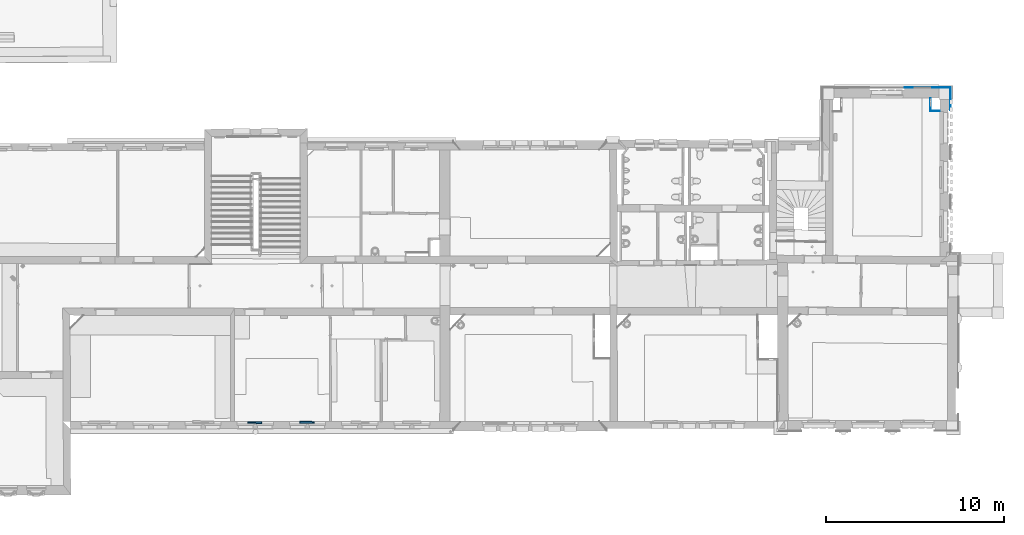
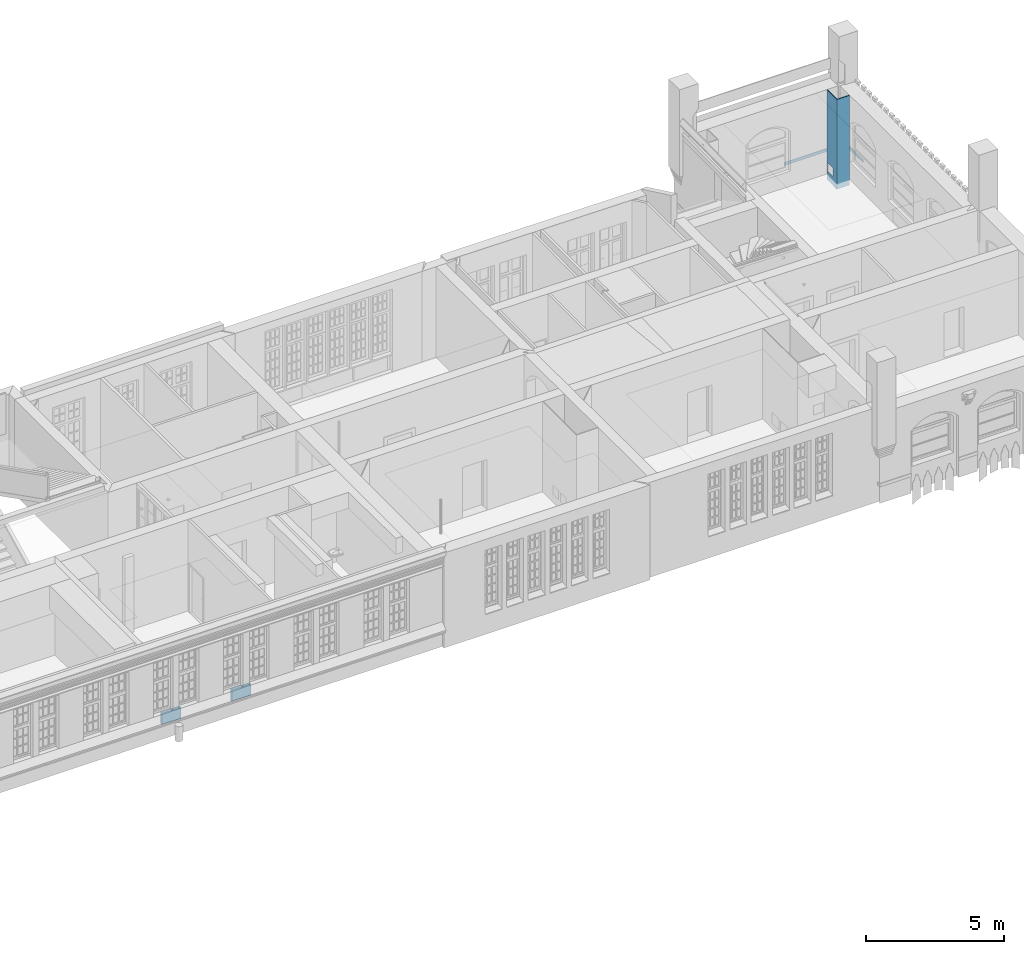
# One storey, part 38 of 90: 6 walls, 1 opening.
"""IFC2X3 building model written with IfcOpenShell, lengths in metres."""

import ifcopenshell
import ifcopenshell.guid

model = None  # the IFC model being written
_history = None  # IfcOwnerHistory: only IFC2X3 demands one
_inside = {}  # id of a spatial element -> (the spatial element, [elements in it])
_under = {}  # id of a project, library or spatial element -> (it, [spatial elements below it])
_declared = {}  # id of a project -> (the project, [libraries it declares])
_typed = {}  # id of a type object -> (the type object, [elements of that type])
_made_of = {}  # id of a material, layer set ... -> (it, [elements and type objects made of it])


def new_model(schema):
    """Start an empty IFC model of exactly this schema.

    Asked for "IFC4X3", IfcOpenShell would pick the latest addendum, in which some entities
    have other attributes; the version numbers below select the first issue.
    IFC2X3 requires an IfcOwnerHistory on every rooted entity: one is made here for all.
    """
    global model, _history
    if schema == "IFC4X3":
        model = ifcopenshell.file(schema_version=(4, 3, 0, 0))
    else:
        model = ifcopenshell.file(schema=schema)
    _inside.clear()
    _under.clear()
    _declared.clear()
    _typed.clear()
    _made_of.clear()
    _history = None
    if model.schema == "IFC2X3":
        org = make("IfcOrganization", Name="unknown")
        user = make(
            "IfcPersonAndOrganization",
            ThePerson=make("IfcPerson", FamilyName="unknown"),
            TheOrganization=org,
        )
        app = make(
            "IfcApplication",
            ApplicationDeveloper=org,
            Version="unknown",
            ApplicationFullName="unknown",
            ApplicationIdentifier="unknown",
        )
        _history = make(
            "IfcOwnerHistory",
            OwningUser=user,
            OwningApplication=app,
            ChangeAction="ADDED",
            CreationDate=0,
        )
    return model


def make(cls, **values):
    """One entity of the class cls with the attributes given. An attribute that is None is left unset."""
    return model.create_entity(
        cls, **{name: value for name, value in values.items() if value is not None}
    )


def entity(cls, *values):
    """Any entity or typed value of the class cls, its attributes in the order of the schema. None: left unset."""
    e = model.create_entity(cls)
    for i, value in enumerate(values):
        if value is not None:
            e[i] = value
    return e


def rooted(cls, **values):
    """An entity with a GlobalId (a new one), such as an element, a storey or a relation."""
    return make(cls, GlobalId=ifcopenshell.guid.new(), OwnerHistory=_history, **values)


def si_unit(unit_type, name, prefix=None):
    """IfcSIUnit, for example si_unit("LENGTHUNIT", "METRE", prefix="MILLI")."""
    return make("IfcSIUnit", UnitType=unit_type, Prefix=prefix, Name=name)


def converted_unit(unit_type, name, factor, base, dimensions=None, offset=None):
    """IfcConversionBasedUnit, such as the inch: factor (a typed value) times the base unit."""
    return make(
        "IfcConversionBasedUnit"
        if offset is None
        else "IfcConversionBasedUnitWithOffset",
        ConversionOffset=offset,
        Dimensions=None
        if dimensions is None
        else entity("IfcDimensionalExponents", *dimensions),
        UnitType=unit_type,
        Name=name,
        ConversionFactor=make(
            "IfcMeasureWithUnit", ValueComponent=factor, UnitComponent=base
        ),
    )


def derived_unit(unit_type, elements):
    """IfcDerivedUnit: a product of units, each with its exponent."""
    return make(
        "IfcDerivedUnit",
        Elements=[
            make("IfcDerivedUnitElement", Unit=unit, Exponent=power)
            for unit, power in elements
        ],
        UnitType=unit_type,
    )


def money_unit(currency):
    """IfcMonetaryUnit."""
    return make("IfcMonetaryUnit", Currency=currency)


def assignment(units):
    """IfcUnitAssignment: the units of a project."""
    return None if units is None else make("IfcUnitAssignment", Units=units)


def point(xyz):
    """IfcCartesianPoint."""
    return None if xyz is None else make("IfcCartesianPoint", Coordinates=xyz)


def direction(xyz):
    """IfcDirection."""
    return None if xyz is None else make("IfcDirection", DirectionRatios=xyz)


def frame(location, z_axis=None, x_axis=None):
    """IfcAxis2Placement3D, a coordinate frame: its origin and axes. An axis left out is left unset."""
    return make(
        "IfcAxis2Placement3D",
        Location=point(location),
        Axis=direction(z_axis),
        RefDirection=direction(x_axis),
    )


def frame_2d(location, x_axis=None):
    """IfcAxis2Placement2D, a coordinate frame in the plane: its origin and x axis."""
    return make(
        "IfcAxis2Placement2D", Location=point(location), RefDirection=direction(x_axis)
    )


def origin_with_axes():
    """The frame at (0, 0, 0) with the z axis (0, 0, 1) and the x axis (1, 0, 0) written out."""
    return frame((0.0, 0.0, 0.0), z_axis=(0.0, 0.0, 1.0), x_axis=(1.0, 0.0, 0.0))


def origin_2d_with_axis():
    """The frame at (0, 0) in the plane with the x axis (1, 0) written out."""
    return frame_2d((0.0, 0.0), x_axis=(1.0, 0.0))


def place(relative_to, where):
    """IfcLocalPlacement: puts the frame where relative to a parent placement (None: the world)."""
    return make(
        "IfcLocalPlacement", PlacementRelTo=relative_to, RelativePlacement=where
    )


def context(
    kind, dimensions, precision=None, world=None, true_north=None, identifier=None
):
    """IfcGeometricRepresentationContext, for example the 3D "Model" context."""
    return make(
        "IfcGeometricRepresentationContext",
        ContextIdentifier=identifier,
        ContextType=kind,
        CoordinateSpaceDimension=dimensions,
        Precision=precision,
        WorldCoordinateSystem=world,
        TrueNorth=true_north,
    )


def subcontext(parent, identifier, kind, view, scale=None):
    """IfcGeometricRepresentationSubContext, for example "Body" below "Model"."""
    return make(
        "IfcGeometricRepresentationSubContext",
        ContextIdentifier=identifier,
        ContextType=kind,
        ParentContext=parent,
        TargetScale=scale,
        TargetView=view,
    )


def project(units=None, contexts=None):
    """IfcProject with its units and contexts."""
    return rooted(
        "IfcProject",
        Name="project",
        RepresentationContexts=contexts,
        UnitsInContext=assignment(units),
    )


def spatial(cls, under=None, at=None, **own):
    """A site, building, storey or space (cls), placed at a placement, below another one or the project."""
    s = rooted(cls, ObjectPlacement=at, **own)
    if under is not None:
        _under.setdefault(under.id(), (under, []))[1].append(s)
    return s


def polyline(points):
    """IfcPolyline through the points."""
    return make("IfcPolyline", Points=[point(p) for p in points])


def profile(cls, at=None, kind="AREA", **sizes):
    """A parametric profile (cls). Its sizes go by their IFC names, for example OverallWidth=200.0."""
    return make(cls, ProfileType=kind, Position=at, **sizes)


def rectangle(**sizes):
    """IfcRectangleProfileDef."""
    return profile("IfcRectangleProfileDef", **sizes)


def outline(outer, holes=None, kind="AREA"):
    """IfcArbitraryClosedProfileDef: a profile drawn as a closed curve; with holes, ...WithVoids."""
    if holes is None:
        return make("IfcArbitraryClosedProfileDef", ProfileType=kind, OuterCurve=outer)
    return make(
        "IfcArbitraryProfileDefWithVoids",
        ProfileType=kind,
        OuterCurve=outer,
        InnerCurves=holes,
    )


def extrude(swept, where, along, depth):
    """IfcExtrudedAreaSolid: the profile swept, set in the frame where, extruded along a direction by depth."""
    return make(
        "IfcExtrudedAreaSolid",
        SweptArea=swept,
        Position=where,
        ExtrudedDirection=direction(along),
        Depth=depth,
    )


def shape(context_of_items, identifier, shape_type, items):
    """IfcShapeRepresentation: the items that make up one representation, for example the "Body"."""
    return make(
        "IfcShapeRepresentation",
        ContextOfItems=context_of_items,
        RepresentationIdentifier=identifier,
        RepresentationType=shape_type,
        Items=items,
    )


def material(Name=None, Category=None):
    """IfcMaterial."""
    return make("IfcMaterial", Name=Name, Category=Category)


def layer(
    of_material, thickness, ventilated=None, Name=None, Category=None, Priority=None
):
    """IfcMaterialLayer: one layer of a wall or slab, of a material (None: an air gap)."""
    return make(
        "IfcMaterialLayer",
        Material=of_material,
        LayerThickness=thickness,
        IsVentilated=ventilated,
        Name=Name,
        Category=Category,
        Priority=Priority,
    )


def layer_set(layers, Name=None):
    """IfcMaterialLayerSet."""
    return make("IfcMaterialLayerSet", MaterialLayers=layers, LayerSetName=Name)


def layer_usage(for_layer_set, set_direction, sense, offset, extent=None):
    """IfcMaterialLayerSetUsage: how a layer set lies in its element."""
    return make(
        "IfcMaterialLayerSetUsage",
        ForLayerSet=for_layer_set,
        LayerSetDirection=set_direction,
        DirectionSense=sense,
        OffsetFromReferenceLine=offset,
        ReferenceExtent=extent,
    )


def made_of(thing, what):
    """Note that an element or type object is made of a material, layer set ...; save() writes the relation."""
    if what is not None:
        _made_of.setdefault(what.id(), (what, []))[1].append(thing)
    return thing


def type_object(cls, material=None, **own):
    """A type object (cls), such as IfcWallType, which elements share."""
    return made_of(rooted(cls, **own), material)


def element(
    cls,
    number,
    at=None,
    inside=None,
    cuts=None,
    type_object=None,
    material=None,
    context=None,
    identifier="Body",
    shape_type=None,
    held_by="IfcProductDefinitionShape",
    body=None,
    shapes=None,
    **own,
):
    """One element of the class cls, such as IfcWall. Its Tag is "e" and its number.

    at: its placement. inside: the storey or other place that contains it. cuts: it is an
    opening in that element (IfcRelVoidsElement). A single representation is given by context,
    identifier, shape_type and body (its items); several are given by shapes. held_by: the class
    of the entity that holds the representations. save() writes the other relations.
    """
    e = rooted(cls, Tag="e%d" % number, ObjectPlacement=at, **own)
    if body is not None:
        shapes = [shape(context, identifier, shape_type, body)]
    if shapes is not None:
        e.Representation = make(held_by, Representations=shapes)
    if inside is not None:
        _inside.setdefault(inside.id(), (inside, []))[1].append(e)
    if cuts is not None:
        rooted(
            "IfcRelVoidsElement", RelatingBuildingElement=cuts, RelatedOpeningElement=e
        )
    if type_object is not None:
        _typed.setdefault(type_object.id(), (type_object, []))[1].append(e)
    return made_of(e, material)


def aggregate(whole, parts):
    """IfcRelAggregates: a whole, such as a stair, and the parts it consists of."""
    return rooted("IfcRelAggregates", RelatingObject=whole, RelatedObjects=parts)


def save(model, path):
    """Write the relations noted so far, then the file.

    IfcRelAggregates (storeys below a building ...), IfcRelContainedInSpatialStructure (elements
    in a storey), IfcRelDefinesByType, IfcRelAssociatesMaterial and IfcRelDeclares: one each for
    every whole, place, type object, material and project.
    """
    for whole, parts in _under.values():
        aggregate(whole, parts)
    for where, things in _inside.values():
        rooted(
            "IfcRelContainedInSpatialStructure",
            RelatedElements=things,
            RelatingStructure=where,
        )
    for kind, things in _typed.values():
        rooted("IfcRelDefinesByType", RelatedObjects=things, RelatingType=kind)
    for what, things in _made_of.values():
        rooted("IfcRelAssociatesMaterial", RelatedObjects=things, RelatingMaterial=what)
    for by, libraries in _declared.values():
        rooted("IfcRelDeclares", RelatingContext=by, RelatedDefinitions=libraries)
    model.write(path)


model = new_model("IFC2X3")

# Units and contexts
model_context = context("Model", 3, precision=1e-05, world=origin_with_axes(), true_north=direction((0.0, 1.0)))
body_context = subcontext(model_context, "Body", "Model", "MODEL_VIEW")
ifc_project = project(units=[si_unit("LENGTHUNIT", "METRE"), si_unit("AREAUNIT", "SQUARE_METRE"), si_unit("VOLUMEUNIT", "CUBIC_METRE"), converted_unit("PLANEANGLEUNIT", "DEGREE", entity("IfcPlaneAngleMeasure", 0.0174532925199), si_unit("PLANEANGLEUNIT", "RADIAN"), dimensions=[0, 0, 0, 0, 0, 0, 0]), money_unit("EUR"), converted_unit("TIMEUNIT", "Year", entity("IfcTimeMeasure", 31556926.0), si_unit("TIMEUNIT", "SECOND"), dimensions=[0, 0, 1, 0, 0, 0, 0]), si_unit("MASSUNIT", "GRAM", prefix="KILO"), si_unit("THERMODYNAMICTEMPERATUREUNIT", "DEGREE_CELSIUS"), si_unit("LUMINOUSINTENSITYUNIT", "LUMEN"), si_unit("ENERGYUNIT", "JOULE", prefix="MEGA"), derived_unit("THERMALCONDUCTANCEUNIT", [(si_unit("POWERUNIT", "WATT"), 1), (si_unit("LENGTHUNIT", "METRE"), -1), (si_unit("THERMODYNAMICTEMPERATUREUNIT", "KELVIN"), -1)]), derived_unit("SPECIFICHEATCAPACITYUNIT", [(si_unit("ENERGYUNIT", "JOULE"), 1), (si_unit("MASSUNIT", "GRAM", prefix="KILO"), -1), (si_unit("THERMODYNAMICTEMPERATUREUNIT", "KELVIN"), -1)]), derived_unit("MASSDENSITYUNIT", [(si_unit("MASSUNIT", "GRAM", prefix="KILO"), 1), (si_unit("VOLUMEUNIT", "CUBIC_METRE"), -1)])], contexts=[model_context])

# Site, building, storey
site_placement = place(None, origin_with_axes())
site = spatial("IfcSite", under=ifc_project, at=site_placement, Name="Gelände", CompositionType="ELEMENT")
building_placement = place(site_placement, origin_with_axes())
building = spatial("IfcBuilding", under=site, at=building_placement, Name="Gebäude", CompositionType="ELEMENT")
storey_placement = place(building_placement, frame((0.0, 0.0, 3.7), z_axis=(0.0, 0.0, 1.0), x_axis=(1.0, 0.0, 0.0)))
storey = spatial("IfcBuildingStorey", under=building, at=storey_placement, Name="1.OBERGESCHOSS", CompositionType="ELEMENT", Elevation=3.7)

# Wall, opening
ifc_material_1 = material(Name="43_Gipskarton")
ifc_layer_1 = layer(ifc_material_1, 0.03, ventilated="UNKNOWN")
ifc_layer_set_1 = layer_set([ifc_layer_1], Name="43_Gipskarton 0.03")
ifc_layer_usage_1 = layer_usage(ifc_layer_set_1, "AXIS2", "NEGATIVE", 0.03)
wall_type_1 = type_object("IfcWallType", Name="43_Gipskarton 30", PredefinedType="ELEMENTEDWALL")
wall_1_placement = place(storey_placement, frame((30.5671112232, 29.1674803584, -0.1), z_axis=(0.0, 0.0, 1.0), x_axis=(-0.0117960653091, -0.999930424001, 0.0)))
wall_1 = element("IfcWallStandardCase", 1, at=wall_1_placement, inside=storey, type_object=wall_type_1, material=ifc_layer_usage_1, Name="Wand-042", ObjectType="ELEMENTEDWALL", context=body_context, shape_type="SweptSolid", body=[
    extrude(outline(polyline([(0.590046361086, 0.0), (1.3152265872, 0.0), (1.28481313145, 0.03), (0.589670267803, 0.03), (0.590046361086, 0.0)])), origin_with_axes(), (0.0, 0.0, 1.0), 3.97),
])
opening_placement = place(wall_1_placement, frame((0.839516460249, 0.0, 0.37785837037), z_axis=(0.0, 0.0, 1.0), x_axis=(1.0, 0.0, 0.0)))
element("IfcOpeningElement", 2, at=opening_placement, cuts=wall_1, Name="Tür-022", context=body_context, shape_type="SweptSolid", body=[
    extrude(rectangle(XDim=0.409033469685, YDim=0.391235, at=origin_2d_with_axis()), frame((0.0, -0.03, 0.1956175), z_axis=(0.0, 1.0, 0.0), x_axis=(-1.0, 0.0, 0.0)), (0.0, 0.0, 1.0), 0.09),
])

# Walls
ifc_layer_usage_2 = layer_usage(ifc_layer_set_1, "AXIS2", "NEGATIVE", 0.03)
wall_2_placement = place(storey_placement, frame((30.5515967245, 27.8523452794, -0.1), z_axis=(0.0, 0.0, 1.0), x_axis=(0.999998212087, 0.00189098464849, 0.0)))
element("IfcWallStandardCase", 3, at=wall_2_placement, inside=storey, type_object=wall_type_1, material=ifc_layer_usage_2, Name="Wand-043", ObjectType="ELEMENTEDWALL", context=body_context, shape_type="SweptSolid", body=[
    extrude(outline(polyline([(0.0, 0.0), (0.542790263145, 0.0), (0.542836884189, 0.03), (0.0304134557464, 0.03), (0.0, 0.0)])), origin_with_axes(), (0.0, 0.0, 1.0), 3.97),
])
ifc_material_2 = material(Name="01_ALLGEMEIN - BAUTEIL")
ifc_layer_2 = layer(ifc_material_2, 0.105, ventilated="UNKNOWN")
ifc_layer_set_2 = layer_set([ifc_layer_2], Name="01_ALLGEMEIN - BAUTEIL 0.105")
ifc_layer_usage_3 = layer_usage(ifc_layer_set_2, "AXIS2", "NEGATIVE", 0.105)
wall_type_2 = type_object("IfcWallType", Name="01_ALLGEMEIN - BAUTEIL 105", PredefinedType="ELEMENTEDWALL")
wall_3_placement = place(storey_placement, frame((-4.08538002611, 10.4015079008, 0.300904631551), z_axis=(0.0, 0.0, 1.0), x_axis=(-0.999984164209, 0.00562772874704, 0.0)))
element("IfcWallStandardCase", 4, at=wall_3_placement, inside=storey, type_object=wall_type_2, material=ifc_layer_usage_3, Name="Wand-036", ObjectType="ELEMENTEDWALL", context=body_context, shape_type="SweptSolid", body=[
    extrude(outline(polyline([(0.0, 0.0), (0.798429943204, 0.0), (0.798429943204, 0.105), (0.0, 0.105), (0.0, 0.0)])), origin_with_axes(), (0.0, 0.0, 1.0), 0.501014),
])
ifc_layer_usage_4 = layer_usage(ifc_layer_set_2, "AXIS2", "NEGATIVE", 0.0)
wall_4_placement = place(storey_placement, frame((-7.81184265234, 10.3970749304, 0.300904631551), z_axis=(0.0, 0.0, 1.0), x_axis=(0.999986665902, -0.00516410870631, 0.0)))
element("IfcWallStandardCase", 5, at=wall_4_placement, inside=storey, type_object=wall_type_2, material=ifc_layer_usage_4, Name="Wand-037", ObjectType="ELEMENTEDWALL", context=body_context, shape_type="SweptSolid", body=[
    extrude(outline(polyline([(0.0, -0.105), (0.798062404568, -0.105), (0.798062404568, 0.0), (0.0, 0.0), (0.0, -0.105)])), origin_with_axes(), (0.0, 0.0, 1.0), 0.501014),
])
wall_type_3 = type_object("IfcWallType", Name="Fassade Sims 7 23 x 138", PredefinedType="ELEMENTEDWALL")
wall_5_placement = place(storey_placement, frame((31.6739429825, 29.1682988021, 0.784829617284), z_axis=(0.0, 0.0, 1.0), x_axis=(0.000336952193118, -0.999999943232, 0.0)))
element("IfcWall", 6, at=wall_5_placement, inside=storey, type_object=wall_type_3, material=ifc_material_2, Name="Wand-083", ObjectType="ELEMENTEDWALL", context=body_context, shape_type="SweptSolid", body=[
    extrude(outline(polyline([(0.0226167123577, 0.0), (0.0, 0.0), (0.0, -0.138037), (0.0226167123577, -0.138037), (0.0226167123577, 0.0)])), frame((0.0, 0.0, 0.0), z_axis=(1.0, 0.0, 0.0), x_axis=(0.0, 1.0, 0.0)), (0.0, 0.0, 1.0), 1.26337125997),
])
wall_6_placement = place(storey_placement, frame((29.1131180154, 29.166405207, 0.784829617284), z_axis=(0.0, 0.0, 1.0), x_axis=(0.999999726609, 0.000739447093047, 0.0)))
element("IfcWall", 7, at=wall_6_placement, inside=storey, type_object=wall_type_3, material=ifc_material_2, Name="Wand-083", ObjectType="ELEMENTEDWALL", context=body_context, shape_type="SweptSolid", body=[
    extrude(outline(polyline([(0.0226167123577, 0.0), (0.0, 0.0), (0.0, -0.138037), (0.0226167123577, -0.138037), (0.0226167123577, 0.0)])), frame((0.0, 0.0, 0.0), z_axis=(1.0, 0.0, 0.0), x_axis=(0.0, 1.0, 0.0)), (0.0, 0.0, 1.0), 2.5608256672),
])

save(model, "model.ifc")
